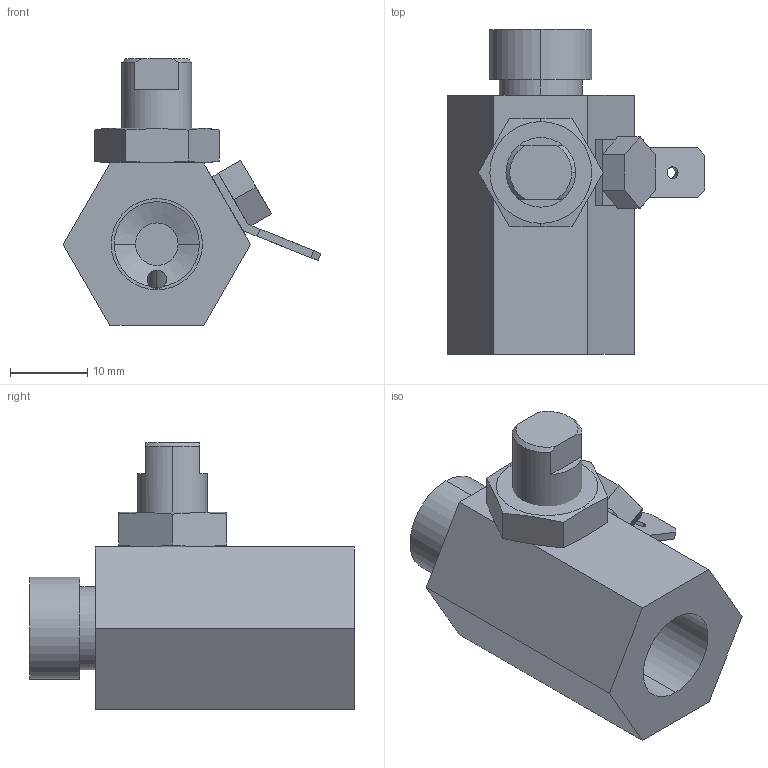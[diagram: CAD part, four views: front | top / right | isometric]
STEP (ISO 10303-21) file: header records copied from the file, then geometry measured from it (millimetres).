
FILE_DESCRIPTION (( 'STEP AP203' ), '1' );
FILE_NAME ('2EJR21C1408000A.STEP', '2017-04-20T10:13:56', ( 'FMI' ), ( 'Hewlett-Packard Company' ), 'SwSTEP 2.0', 'SolidWorks 2010', '' );
FILE_SCHEMA (( 'CONFIG_CONTROL_DESIGN' ));
Length unit declared in the file: millimetre
Products named in the file (6): 2EJR21C1408000A; Corps 2EJR21_Avec prise vacuostatique; Mélangeur 2EJR21_S095109; F64.D250.18; F82.534929; C29_Vis H acier ZB CL8.8_vis H M 5x  8 
Assembly tree (5 placements, depth 2):
  2EJR21C1408000A
    Corps 2EJR21_Avec prise vacuostatique
    F82.534929
    Mélangeur 2EJR21_S095109
    C29_Vis H acier ZB CL8.8_vis H M 5x  8 
    F64.D250.18
Bounding box: 33.35 x 42 x 34.5 mm (x, y, z)
Volume: 12864.6 mm3; surface area: 6900.5 mm2
Topology: 5 solids, 5 shells, 104 faces, 252 edges, 162 vertices
Faces by surface type: plane 53, cylinder 32, cone 19
Entity records: 3869 total; most frequent: CARTESIAN_POINT 776, DIRECTION 525, ORIENTED_EDGE 500, EDGE_CURVE 250, AXIS2_PLACEMENT_3D 193, VERTEX_POINT 162, LINE 139, VECTOR 139
